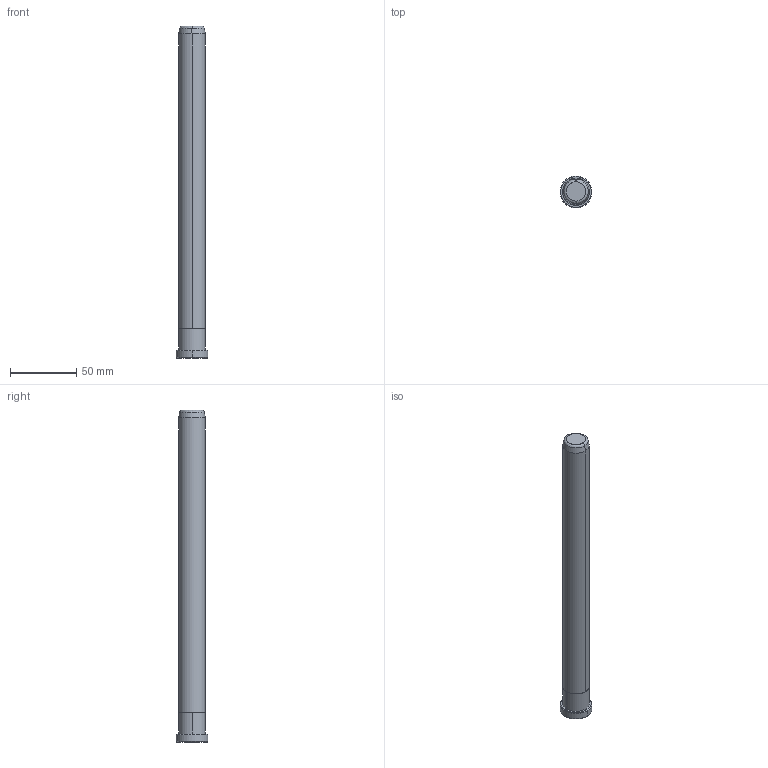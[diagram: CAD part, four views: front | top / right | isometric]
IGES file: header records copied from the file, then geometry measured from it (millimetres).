
Start section: START RECORD GO HERE.
Global section: file name: B80820250.igs; native system: DASSAULT SYSTEMES CATIA V5 R20 - www.3ds.com; preprocessor: CATIA Version 5 Release 20 ; author: Utente; organization: NB04-ASUS; date: 20200419.165023; units: millimetre
Bounding box: 24 x 24 x 250 mm (x, y, z)
Surface area: 16533.9 mm2 (no closed solid volume)
Topology: 0 solids, 0 shells, 20 faces, 80 edges, 80 vertices
Faces by surface type: revolution 16, plane 4
